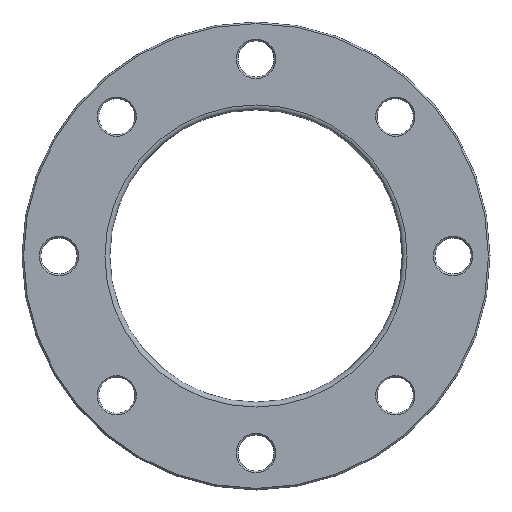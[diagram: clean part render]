
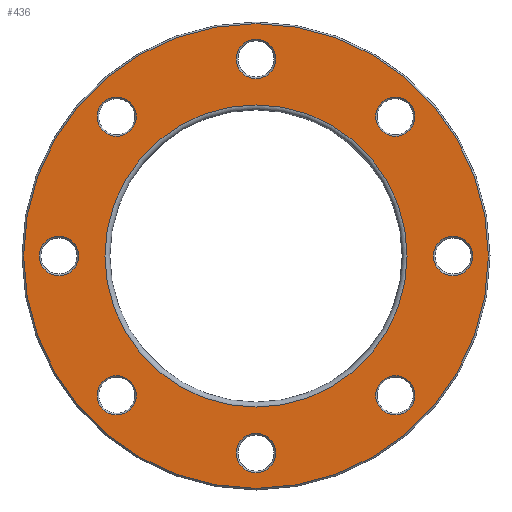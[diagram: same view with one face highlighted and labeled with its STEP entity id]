
A CAD part, front view. The second image highlights one B-rep face of the part: STEP entity #436.
In plain terms, the highlighted planar face has unit normal (0, -1, 0).
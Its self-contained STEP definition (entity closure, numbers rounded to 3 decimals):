
#23=PLANE('',#516);
#98=ORIENTED_EDGE('',*,*,#157,.T.);
#99=ORIENTED_EDGE('',*,*,#158,.T.);
#100=ORIENTED_EDGE('',*,*,#124,.T.);
#101=ORIENTED_EDGE('',*,*,#128,.T.);
#102=ORIENTED_EDGE('',*,*,#132,.T.);
#103=ORIENTED_EDGE('',*,*,#136,.T.);
#104=ORIENTED_EDGE('',*,*,#140,.T.);
#105=ORIENTED_EDGE('',*,*,#144,.T.);
#106=ORIENTED_EDGE('',*,*,#148,.T.);
#107=ORIENTED_EDGE('',*,*,#159,.T.);
#124=EDGE_CURVE('',#164,#164,#204,.T.);
#128=EDGE_CURVE('',#168,#168,#208,.T.);
#132=EDGE_CURVE('',#172,#172,#212,.T.);
#136=EDGE_CURVE('',#176,#176,#216,.T.);
#140=EDGE_CURVE('',#180,#180,#220,.T.);
#144=EDGE_CURVE('',#184,#184,#224,.T.);
#148=EDGE_CURVE('',#188,#188,#228,.T.);
#157=EDGE_CURVE('',#197,#197,#237,.F.);
#158=EDGE_CURVE('',#198,#198,#238,.T.);
#159=EDGE_CURVE('',#199,#199,#239,.T.);
#164=VERTEX_POINT('',#683);
#168=VERTEX_POINT('',#694);
#172=VERTEX_POINT('',#705);
#176=VERTEX_POINT('',#716);
#180=VERTEX_POINT('',#727);
#184=VERTEX_POINT('',#738);
#188=VERTEX_POINT('',#749);
#197=VERTEX_POINT('',#772);
#198=VERTEX_POINT('',#774);
#199=VERTEX_POINT('',#776);
#204=CIRCLE('',#461,12.);
#208=CIRCLE('',#468,12.);
#212=CIRCLE('',#475,12.);
#216=CIRCLE('',#482,12.);
#220=CIRCLE('',#489,12.);
#224=CIRCLE('',#496,12.);
#228=CIRCLE('',#503,12.);
#237=CIRCLE('',#517,141.5);
#238=CIRCLE('',#518,92.);
#239=CIRCLE('',#519,12.);
#298=EDGE_LOOP('',(#98));
#299=EDGE_LOOP('',(#99));
#300=EDGE_LOOP('',(#100));
#301=EDGE_LOOP('',(#101));
#302=EDGE_LOOP('',(#102));
#303=EDGE_LOOP('',(#103));
#304=EDGE_LOOP('',(#104));
#305=EDGE_LOOP('',(#105));
#306=EDGE_LOOP('',(#106));
#307=EDGE_LOOP('',(#107));
#378=FACE_BOUND('',#298,.T.);
#379=FACE_BOUND('',#299,.T.);
#380=FACE_BOUND('',#300,.T.);
#381=FACE_BOUND('',#301,.T.);
#382=FACE_BOUND('',#302,.T.);
#383=FACE_BOUND('',#303,.T.);
#384=FACE_BOUND('',#304,.T.);
#385=FACE_BOUND('',#305,.T.);
#386=FACE_BOUND('',#306,.T.);
#387=FACE_BOUND('',#307,.T.);
#436=ADVANCED_FACE('',(#378,#379,#380,#381,#382,#383,#384,#385,#386,#387),
#23,.F.);
#461=AXIS2_PLACEMENT_3D('',#682,#539,#540);
#468=AXIS2_PLACEMENT_3D('',#693,#553,#554);
#475=AXIS2_PLACEMENT_3D('',#704,#567,#568);
#482=AXIS2_PLACEMENT_3D('',#715,#581,#582);
#489=AXIS2_PLACEMENT_3D('',#726,#595,#596);
#496=AXIS2_PLACEMENT_3D('',#737,#609,#610);
#503=AXIS2_PLACEMENT_3D('',#748,#623,#624);
#516=AXIS2_PLACEMENT_3D('',#770,#649,#650);
#517=AXIS2_PLACEMENT_3D('',#771,#651,#652);
#518=AXIS2_PLACEMENT_3D('',#773,#653,#654);
#519=AXIS2_PLACEMENT_3D('',#775,#655,#656);
#539=DIRECTION('',(0.,1.,0.));
#540=DIRECTION('',(0.707,0.,0.707));
#553=DIRECTION('',(0.,1.,0.));
#554=DIRECTION('',(0.,0.,1.));
#567=DIRECTION('',(0.,1.,0.));
#568=DIRECTION('',(-0.707,0.,0.707));
#581=DIRECTION('',(0.,1.,0.));
#582=DIRECTION('',(-1.,0.,0.));
#595=DIRECTION('',(0.,1.,0.));
#596=DIRECTION('',(-0.707,0.,-0.707));
#609=DIRECTION('',(0.,1.,0.));
#610=DIRECTION('',(0.,0.,-1.));
#623=DIRECTION('',(0.,1.,0.));
#624=DIRECTION('',(0.707,0.,-0.707));
#649=DIRECTION('',(0.,1.,0.));
#650=DIRECTION('',(0.,0.,1.));
#651=DIRECTION('',(0.,1.,0.));
#652=DIRECTION('',(0.,0.,1.));
#653=DIRECTION('',(0.,1.,0.));
#654=DIRECTION('',(0.,0.,1.));
#655=DIRECTION('',(0.,1.,0.));
#656=DIRECTION('',(1.,0.,0.));
#682=CARTESIAN_POINT('',(-84.853,0.,84.853));
#683=CARTESIAN_POINT('',(-76.368,0.,93.338));
#693=CARTESIAN_POINT('',(-120.,0.,0.));
#694=CARTESIAN_POINT('',(-120.,0.,12.));
#704=CARTESIAN_POINT('',(-84.853,0.,-84.853));
#705=CARTESIAN_POINT('',(-93.338,0.,-76.368));
#715=CARTESIAN_POINT('',(0.,0.,-120.));
#716=CARTESIAN_POINT('',(-12.,0.,-120.));
#726=CARTESIAN_POINT('',(84.853,0.,-84.853));
#727=CARTESIAN_POINT('',(76.368,0.,-93.338));
#737=CARTESIAN_POINT('',(120.,0.,0.));
#738=CARTESIAN_POINT('',(120.,0.,-12.));
#748=CARTESIAN_POINT('',(84.853,0.,84.853));
#749=CARTESIAN_POINT('',(93.338,0.,76.368));
#770=CARTESIAN_POINT('',(0.,0.,0.));
#771=CARTESIAN_POINT('',(0.,0.,0.));
#772=CARTESIAN_POINT('',(0.,0.,141.5));
#773=CARTESIAN_POINT('',(0.,0.,0.));
#774=CARTESIAN_POINT('',(0.,0.,92.));
#775=CARTESIAN_POINT('',(0.,0.,120.));
#776=CARTESIAN_POINT('',(12.,0.,120.));
